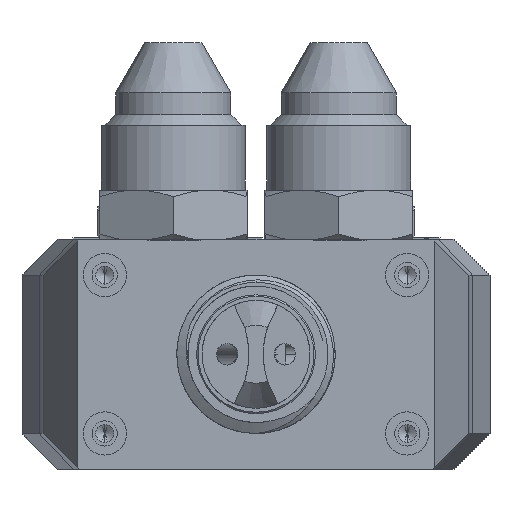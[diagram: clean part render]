
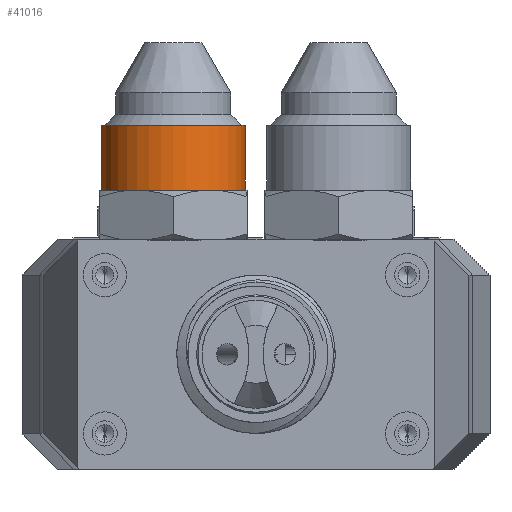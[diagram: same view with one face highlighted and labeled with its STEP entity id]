
A CAD part, front view. The second image highlights one B-rep face of the part: STEP entity #41016.
In plain terms, the highlighted cylindrical face has radius 10 mm (diameter 20 mm), a partial arc.
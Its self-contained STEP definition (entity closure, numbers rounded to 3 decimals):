
#724 = CARTESIAN_POINT ( 'NONE',  ( -38.472, -161.12, 1052.575 ) ) ;
#2270 = EDGE_CURVE ( 'NONE', #7561, #17565, #31176, .T. ) ;
#2443 = VECTOR ( 'NONE', #31454, 1000. ) ;
#4765 = LINE ( 'NONE', #724, #49320 ) ;
#7561 = VERTEX_POINT ( 'NONE', #12894 ) ;
#12156 = VERTEX_POINT ( 'NONE', #30668 ) ;
#12542 = ORIENTED_EDGE ( 'NONE', *, *, #49032, .T. ) ;
#12894 = CARTESIAN_POINT ( 'NONE',  ( -58.472, -161.12, 1021.303 ) ) ;
#13060 = EDGE_LOOP ( 'NONE', ( #14418, #12542, #20140, #26278 ) ) ;
#14418 = ORIENTED_EDGE ( 'NONE', *, *, #2270, .F. ) ;
#17162 = DIRECTION ( 'NONE',  ( 0., 0., 1. ) ) ;
#17212 = CARTESIAN_POINT ( 'NONE',  ( -58.472, -161.12, 1030.303 ) ) ;
#17565 = VERTEX_POINT ( 'NONE', #17212 ) ;
#18978 = DIRECTION ( 'NONE',  ( 1., 0., 0. ) ) ;
#19332 = AXIS2_PLACEMENT_3D ( 'NONE', #27133, #52679, #31421 ) ;
#20140 = ORIENTED_EDGE ( 'NONE', *, *, #49952, .T. ) ;
#23716 = VERTEX_POINT ( 'NONE', #37412 ) ;
#25969 = AXIS2_PLACEMENT_3D ( 'NONE', #34877, #42972, #33359 ) ;
#26278 = ORIENTED_EDGE ( 'NONE', *, *, #36603, .T. ) ;
#27133 = CARTESIAN_POINT ( 'NONE',  ( -48.472, -161.12, 1030.303 ) ) ;
#30668 = CARTESIAN_POINT ( 'NONE',  ( -38.472, -161.12, 1030.303 ) ) ;
#31176 = LINE ( 'NONE', #52209, #2443 ) ;
#31421 = DIRECTION ( 'NONE',  ( 1., 0., 0. ) ) ;
#31454 = DIRECTION ( 'NONE',  ( 0., 0., 1. ) ) ;
#31646 = CYLINDRICAL_SURFACE ( 'NONE', #52263, 10. ) ;
#32252 = CIRCLE ( 'NONE', #19332, 10. ) ;
#33359 = DIRECTION ( 'NONE',  ( 1., 0., 0. ) ) ;
#33726 = CIRCLE ( 'NONE', #25969, 10. ) ;
#34877 = CARTESIAN_POINT ( 'NONE',  ( -48.472, -161.12, 1021.303 ) ) ;
#36603 = EDGE_CURVE ( 'NONE', #12156, #17565, #32252, .T. ) ;
#37412 = CARTESIAN_POINT ( 'NONE',  ( -38.472, -161.12, 1021.303 ) ) ;
#39991 = FACE_OUTER_BOUND ( 'NONE', #13060, .T. ) ;
#41016 = ADVANCED_FACE ( 'NONE', ( #39991 ), #31646, .T. ) ;
#42972 = DIRECTION ( 'NONE',  ( 0., 0., 1. ) ) ;
#47531 = DIRECTION ( 'NONE',  ( 0., 0., 1. ) ) ;
#48603 = CARTESIAN_POINT ( 'NONE',  ( -48.472, -161.12, 1052.575 ) ) ;
#49032 = EDGE_CURVE ( 'NONE', #7561, #23716, #33726, .T. ) ;
#49320 = VECTOR ( 'NONE', #17162, 1000. ) ;
#49952 = EDGE_CURVE ( 'NONE', #23716, #12156, #4765, .T. ) ;
#52209 = CARTESIAN_POINT ( 'NONE',  ( -58.472, -161.12, 1052.575 ) ) ;
#52263 = AXIS2_PLACEMENT_3D ( 'NONE', #48603, #47531, #18978 ) ;
#52679 = DIRECTION ( 'NONE',  ( 0., 0., -1. ) ) ;
